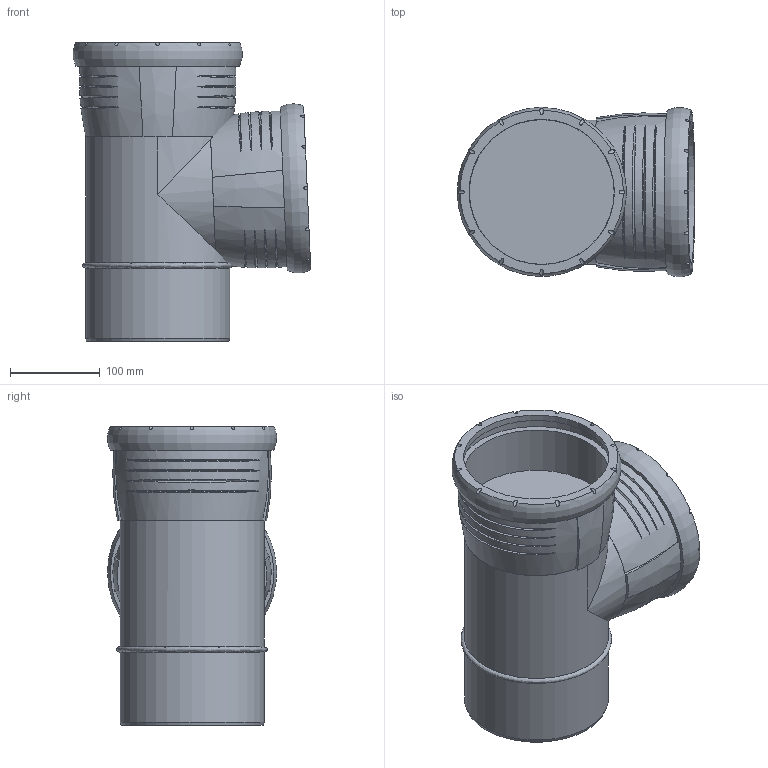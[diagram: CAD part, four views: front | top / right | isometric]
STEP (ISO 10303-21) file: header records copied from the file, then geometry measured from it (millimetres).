
FILE_DESCRIPTION(/* description */ (''),/* implementation_level */ '2;1');
FILE_NAME(/* name */ 'H:\Geberit-Teile\Export\Abzweig PP\stp\393753.stp',/* time_stamp */ '2017-02-13T13:21:58+01:00',/* author */ ('seihe2'),/* organization */ (''),/* preprocessor_version */ 'ST-DEVELOPER v15.2',/* originating_system */ 'Autodesk Inventor 2014',/* authorisation */ '');
FILE_SCHEMA (('AUTOMOTIVE_DESIGN { 1 0 10303 214 3 1 1 }'));
Length unit declared in the file: millimetre
Products named in the file (1): 393753
Bounding box: 264.32 x 188.24 x 332.65 mm (x, y, z)
Volume: 5600600 mm3; surface area: 540310.5 mm2
Topology: 5 solids, 5 shells, 109 faces, 253 edges, 178 vertices
Faces by surface type: bspline 45, cylinder 42, plane 19, torus 2, cone 1
Full cylindrical faces by diameter (mm): 126.565 x2, 148.25 x1, 160.25 x3, 161.2 x2, 161.7 x2, 174.9 x2
Entity records: 7730 total; most frequent: CARTESIAN_POINT 5486, ORIENTED_EDGE 462, DIRECTION 347, EDGE_CURVE 230, AXIS2_PLACEMENT_3D 173, VERTEX_POINT 171, EDGE_LOOP 151, B_SPLINE_CURVE_WITH_KNOTS 120
